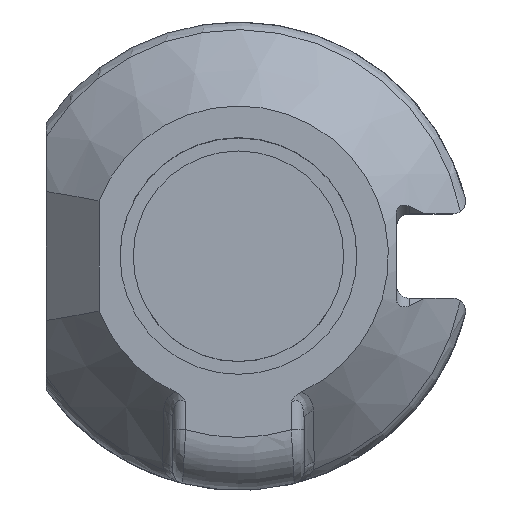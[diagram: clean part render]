
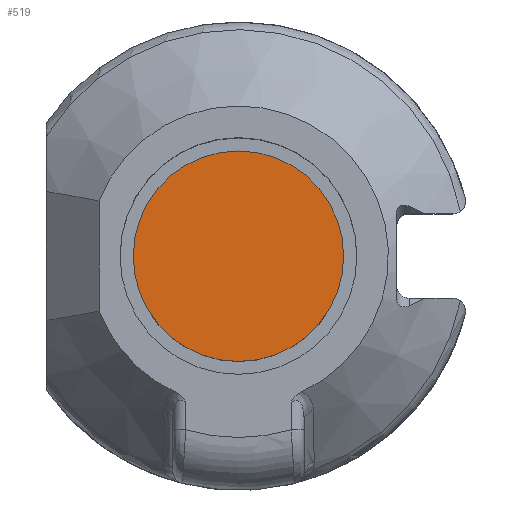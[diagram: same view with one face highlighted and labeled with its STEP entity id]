
A CAD part, top view. The second image highlights one B-rep face of the part: STEP entity #519.
In plain terms, the highlighted planar face has unit normal (0, 0, 1).
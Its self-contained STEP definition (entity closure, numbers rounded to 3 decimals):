
#400=FACE_OUTER_BOUND('',#673,.T.);
#480=PLANE('',#1632);
#519=ADVANCED_FACE('',(#400),#480,.T.);
#673=EDGE_LOOP('',(#776));
#776=ORIENTED_EDGE('',*,*,#1344,.F.);
#1205=VERTEX_POINT('',#2210);
#1344=EDGE_CURVE('',#1205,#1205,#1560,.T.);
#1560=CIRCLE('',#1630,4.);
#1630=AXIS2_PLACEMENT_3D('',#2209,#1797,#1798);
#1632=AXIS2_PLACEMENT_3D('',#2212,#1801,#1802);
#1797=DIRECTION('',(0.,0.,-1.));
#1798=DIRECTION('',(-1.,0.,0.));
#1801=DIRECTION('',(0.,0.,1.));
#1802=DIRECTION('',(1.,0.,0.));
#2209=CARTESIAN_POINT('',(-150.893,-35.022,-111.8));
#2210=CARTESIAN_POINT('',(-154.893,-35.022,-111.8));
#2212=CARTESIAN_POINT('',(-150.893,-39.022,-111.8));
